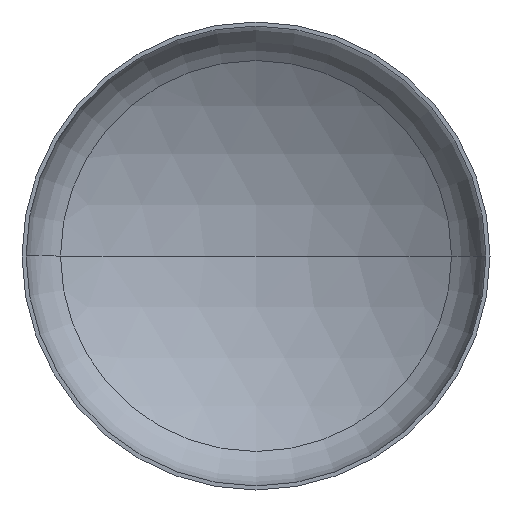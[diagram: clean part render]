
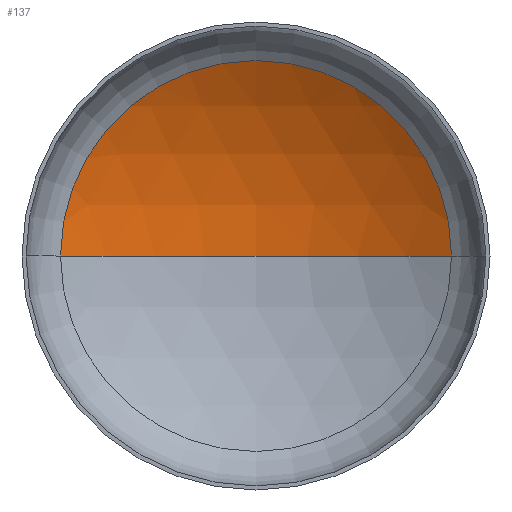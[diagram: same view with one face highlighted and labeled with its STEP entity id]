
A CAD part, front view. The second image highlights one B-rep face of the part: STEP entity #137.
In plain terms, the highlighted spherical face has radius 3040 mm.
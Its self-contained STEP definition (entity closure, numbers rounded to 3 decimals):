
#14 = EDGE_LOOP ( 'NONE', ( #57, #23, #127 ) ) ;
#18 = AXIS2_PLACEMENT_3D ( 'NONE', #329, #25, #93 ) ;
#19 = AXIS2_PLACEMENT_3D ( 'NONE', #304, #357, #162 ) ;
#23 = ORIENTED_EDGE ( 'NONE', *, *, #358, .T. ) ;
#25 = DIRECTION ( 'NONE',  ( 0., 0., -1. ) ) ;
#46 = AXIS2_PLACEMENT_3D ( 'NONE', #157, #159, #361 ) ;
#57 = ORIENTED_EDGE ( 'NONE', *, *, #336, .F. ) ;
#70 = CIRCLE ( 'NONE', #46, 3040. ) ;
#85 = VERTEX_POINT ( 'NONE', #224 ) ;
#89 = VERTEX_POINT ( 'NONE', #227 ) ;
#93 = DIRECTION ( 'NONE',  ( -1., 0., 0. ) ) ;
#112 = AXIS2_PLACEMENT_3D ( 'NONE', #311, #305, #303 ) ;
#119 = VERTEX_POINT ( 'NONE', #221 ) ;
#127 = ORIENTED_EDGE ( 'NONE', *, *, #350, .T. ) ;
#137 = ADVANCED_FACE ( 'NONE', ( #296 ), #171, .F. ) ;
#157 = CARTESIAN_POINT ( 'NONE',  ( 0., -1993.681, 0. ) ) ;
#159 = DIRECTION ( 'NONE',  ( 0., 0., 1. ) ) ;
#162 = DIRECTION ( 'NONE',  ( 1., 0., 0. ) ) ;
#171 = SPHERICAL_SURFACE ( 'NONE', #112, 3040. ) ;
#180 = CIRCLE ( 'NONE', #19, 1587.487 ) ;
#221 = CARTESIAN_POINT ( 'NONE',  ( 1587.487, 598.902, 0. ) ) ;
#224 = CARTESIAN_POINT ( 'NONE',  ( -1587.487, 598.902, 0. ) ) ;
#227 = CARTESIAN_POINT ( 'NONE',  ( 0., 1046.319, 0. ) ) ;
#296 = FACE_OUTER_BOUND ( 'NONE', #14, .T. ) ;
#303 = DIRECTION ( 'NONE',  ( -1., 0., 0. ) ) ;
#304 = CARTESIAN_POINT ( 'NONE',  ( 0., 598.902, 0. ) ) ;
#305 = DIRECTION ( 'NONE',  ( 0., 0., -1. ) ) ;
#311 = CARTESIAN_POINT ( 'NONE',  ( 0., -1993.681, 0. ) ) ;
#329 = CARTESIAN_POINT ( 'NONE',  ( 0., -1993.681, 0. ) ) ;
#336 = EDGE_CURVE ( 'NONE', #89, #85, #70, .T. ) ;
#350 = EDGE_CURVE ( 'NONE', #119, #85, #180, .T. ) ;
#357 = DIRECTION ( 'NONE',  ( 0., -1., 0. ) ) ;
#358 = EDGE_CURVE ( 'NONE', #89, #119, #376, .T. ) ;
#361 = DIRECTION ( 'NONE',  ( 1., 0., 0. ) ) ;
#376 = CIRCLE ( 'NONE', #18, 3040. ) ;
